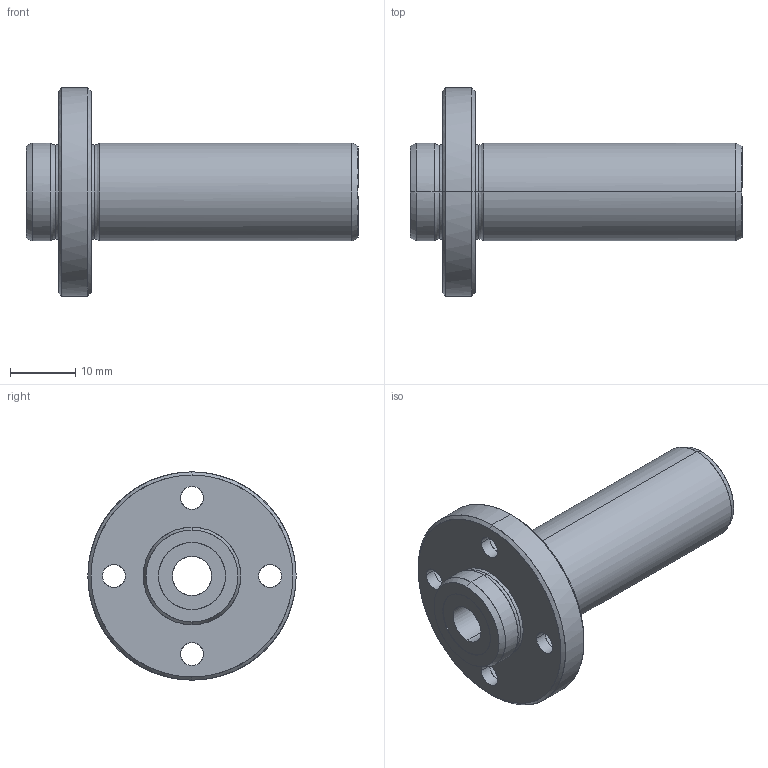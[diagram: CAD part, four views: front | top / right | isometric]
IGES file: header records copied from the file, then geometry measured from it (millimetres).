
Global section: file name: No Iges File Name specified; native system: AutoDesk Inventor R10; preprocessor: AutoDesk Inventor Iges Exporter R10; author: No Author specified; organization: No Organization specified; date: 20101211.161912; units: millimetre
Bounding box: 51 x 32 x 32 mm (x, y, z)
Surface area: 5359.3 mm2 (no closed solid volume)
Topology: 0 solids, 0 shells, 54 faces, 376 edges, 376 vertices
Faces by surface type: bspline 54
